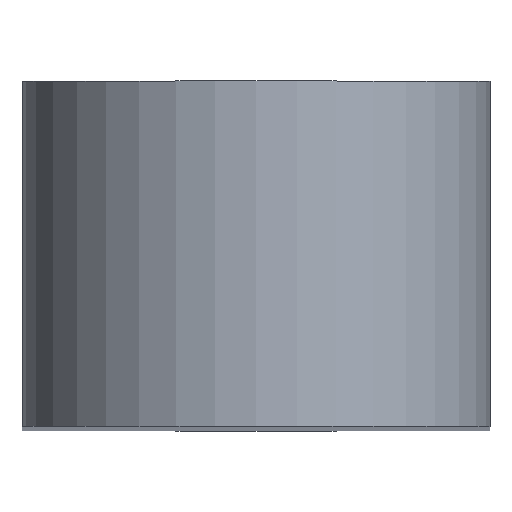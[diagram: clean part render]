
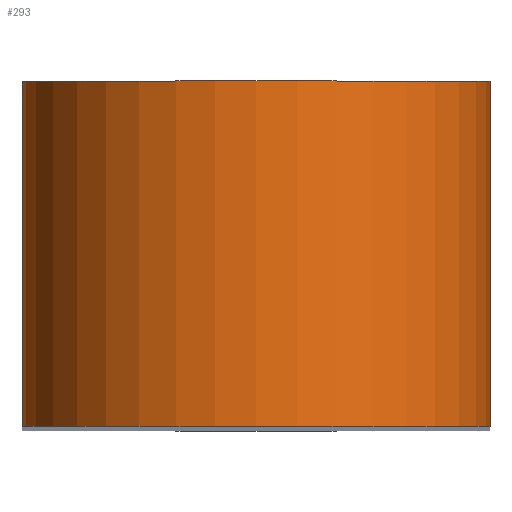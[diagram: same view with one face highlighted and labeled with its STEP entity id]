
A CAD part, top view. The second image highlights one B-rep face of the part: STEP entity #293.
In plain terms, the highlighted cylindrical face has radius 12 mm (diameter 24 mm), a partial arc.
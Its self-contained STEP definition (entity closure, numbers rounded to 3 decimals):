
#4 = CARTESIAN_POINT ( 'NONE',  ( 0., 17.7, 60. ) ) ;
#11 = DIRECTION ( 'NONE',  ( 0., 0., 1. ) ) ;
#29 = EDGE_LOOP ( 'NONE', ( #378, #422, #244, #306 ) ) ;
#38 = DIRECTION ( 'NONE',  ( 0., -1., 0. ) ) ;
#43 = DIRECTION ( 'NONE',  ( 0., -1., 0. ) ) ;
#73 = FACE_OUTER_BOUND ( 'NONE', #29, .T. ) ;
#75 = CARTESIAN_POINT ( 'NONE',  ( 12., 17.7, 60. ) ) ;
#78 = LINE ( 'NONE', #360, #374 ) ;
#91 = VERTEX_POINT ( 'NONE', #397 ) ;
#96 = AXIS2_PLACEMENT_3D ( 'NONE', #253, #38, #318 ) ;
#109 = LINE ( 'NONE', #75, #203 ) ;
#112 = CARTESIAN_POINT ( 'NONE',  ( -12., 0., 60. ) ) ;
#148 = AXIS2_PLACEMENT_3D ( 'NONE', #4, #247, #386 ) ;
#154 = CARTESIAN_POINT ( 'NONE',  ( 0., 0., 60. ) ) ;
#203 = VECTOR ( 'NONE', #276, 1000. ) ;
#236 = EDGE_CURVE ( 'NONE', #281, #385, #241, .T. ) ;
#241 = CIRCLE ( 'NONE', #148, 12. ) ;
#242 = CIRCLE ( 'NONE', #388, 12. ) ;
#244 = ORIENTED_EDGE ( 'NONE', *, *, #236, .F. ) ;
#247 = DIRECTION ( 'NONE',  ( 0., 1., 0. ) ) ;
#253 = CARTESIAN_POINT ( 'NONE',  ( 0., 17.7, 60. ) ) ;
#257 = EDGE_CURVE ( 'NONE', #385, #91, #109, .T. ) ;
#276 = DIRECTION ( 'NONE',  ( 0., -1., 0. ) ) ;
#281 = VERTEX_POINT ( 'NONE', #389 ) ;
#293 = ADVANCED_FACE ( 'NONE', ( #73 ), #353, .T. ) ;
#306 = ORIENTED_EDGE ( 'NONE', *, *, #433, .T. ) ;
#318 = DIRECTION ( 'NONE',  ( 0., 0., -1. ) ) ;
#353 = CYLINDRICAL_SURFACE ( 'NONE', #96, 12. ) ;
#360 = CARTESIAN_POINT ( 'NONE',  ( -12., 17.7, 60. ) ) ;
#374 = VECTOR ( 'NONE', #43, 1000. ) ;
#378 = ORIENTED_EDGE ( 'NONE', *, *, #409, .T. ) ;
#379 = VERTEX_POINT ( 'NONE', #112 ) ;
#385 = VERTEX_POINT ( 'NONE', #396 ) ;
#386 = DIRECTION ( 'NONE',  ( 0., 0., 1. ) ) ;
#388 = AXIS2_PLACEMENT_3D ( 'NONE', #154, #421, #11 ) ;
#389 = CARTESIAN_POINT ( 'NONE',  ( -12., 17.7, 60. ) ) ;
#396 = CARTESIAN_POINT ( 'NONE',  ( 12., 17.7, 60. ) ) ;
#397 = CARTESIAN_POINT ( 'NONE',  ( 12., 0., 60. ) ) ;
#409 = EDGE_CURVE ( 'NONE', #379, #91, #242, .T. ) ;
#421 = DIRECTION ( 'NONE',  ( 0., 1., 0. ) ) ;
#422 = ORIENTED_EDGE ( 'NONE', *, *, #257, .F. ) ;
#433 = EDGE_CURVE ( 'NONE', #281, #379, #78, .T. ) ;
